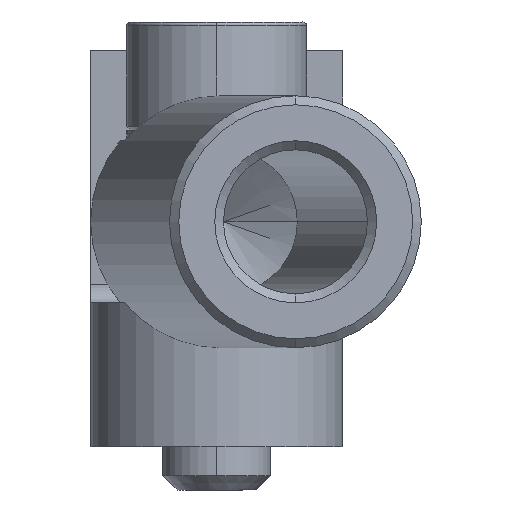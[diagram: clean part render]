
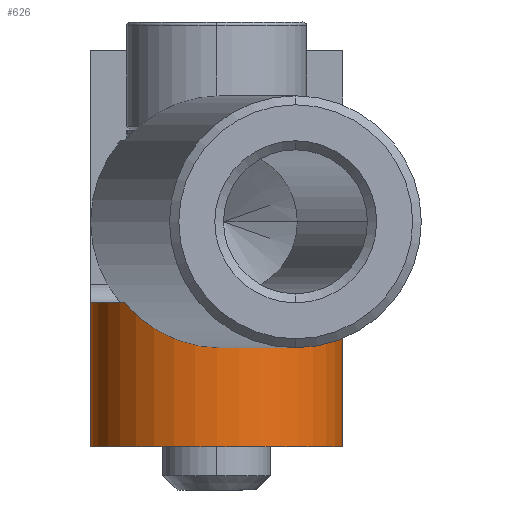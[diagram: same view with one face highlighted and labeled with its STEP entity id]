
A CAD part, front view. The second image highlights one B-rep face of the part: STEP entity #626.
In plain terms, the highlighted cylindrical face has radius 7 mm (diameter 14 mm), a partial arc.
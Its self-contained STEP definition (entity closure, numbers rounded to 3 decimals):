
#293 = DIRECTION ( 'NONE',  ( 0., 0., 1. ) ) ;
#441 = CARTESIAN_POINT ( 'NONE',  ( -39.849, 20.459, 0. ) ) ;
#469 = FACE_OUTER_BOUND ( 'NONE', #5862, .T. ) ;
#480 = CARTESIAN_POINT ( 'NONE',  ( -39.849, 20.459, -3. ) ) ;
#537 = CARTESIAN_POINT ( 'NONE',  ( -25.849, 20.459, -3. ) ) ;
#626 = ADVANCED_FACE ( 'NONE', ( #469 ), #1536, .T. ) ;
#1066 = DIRECTION ( 'NONE',  ( 0., 0., -1. ) ) ;
#1536 = CYLINDRICAL_SURFACE ( 'NONE', #3712, 7. ) ;
#1885 = DIRECTION ( 'NONE',  ( 0., 0., -1. ) ) ;
#1977 = VECTOR ( 'NONE', #8024, 1000. ) ;
#2262 = DIRECTION ( 'NONE',  ( 0., 0., 1. ) ) ;
#2332 = CARTESIAN_POINT ( 'NONE',  ( -25.849, 20.459, 0. ) ) ;
#2564 = CARTESIAN_POINT ( 'NONE',  ( -25.849, 20.459, -11. ) ) ;
#2838 = LINE ( 'NONE', #441, #3078 ) ;
#2931 = CIRCLE ( 'NONE', #8165, 7. ) ;
#3078 = VECTOR ( 'NONE', #293, 1000. ) ;
#3712 = AXIS2_PLACEMENT_3D ( 'NONE', #7696, #1885, #3916 ) ;
#3916 = DIRECTION ( 'NONE',  ( -1., 0., 0. ) ) ;
#4149 = EDGE_CURVE ( 'NONE', #5669, #6260, #2838, .T. ) ;
#4325 = CARTESIAN_POINT ( 'NONE',  ( -39.849, 20.459, -11. ) ) ;
#4631 = EDGE_CURVE ( 'NONE', #5497, #8807, #8173, .T. ) ;
#5497 = VERTEX_POINT ( 'NONE', #537 ) ;
#5669 = VERTEX_POINT ( 'NONE', #4325 ) ;
#5707 = CARTESIAN_POINT ( 'NONE',  ( -32.849, 20.459, -11. ) ) ;
#5862 = EDGE_LOOP ( 'NONE', ( #8528, #9727, #6028, #6494 ) ) ;
#6028 = ORIENTED_EDGE ( 'NONE', *, *, #6700, .F. ) ;
#6260 = VERTEX_POINT ( 'NONE', #480 ) ;
#6494 = ORIENTED_EDGE ( 'NONE', *, *, #4631, .F. ) ;
#6504 = DIRECTION ( 'NONE',  ( -1., 0., 0. ) ) ;
#6700 = EDGE_CURVE ( 'NONE', #8807, #5669, #2931, .T. ) ;
#6925 = CARTESIAN_POINT ( 'NONE',  ( -32.849, 20.459, -3. ) ) ;
#7696 = CARTESIAN_POINT ( 'NONE',  ( -32.849, 20.459, -3. ) ) ;
#7722 = DIRECTION ( 'NONE',  ( -1., 0., 0. ) ) ;
#8007 = EDGE_CURVE ( 'NONE', #6260, #5497, #8845, .T. ) ;
#8024 = DIRECTION ( 'NONE',  ( 0., 0., -1. ) ) ;
#8165 = AXIS2_PLACEMENT_3D ( 'NONE', #5707, #1066, #6504 ) ;
#8173 = LINE ( 'NONE', #2332, #1977 ) ;
#8528 = ORIENTED_EDGE ( 'NONE', *, *, #8007, .F. ) ;
#8807 = VERTEX_POINT ( 'NONE', #2564 ) ;
#8845 = CIRCLE ( 'NONE', #9650, 7. ) ;
#9650 = AXIS2_PLACEMENT_3D ( 'NONE', #6925, #2262, #7722 ) ;
#9727 = ORIENTED_EDGE ( 'NONE', *, *, #4149, .F. ) ;
